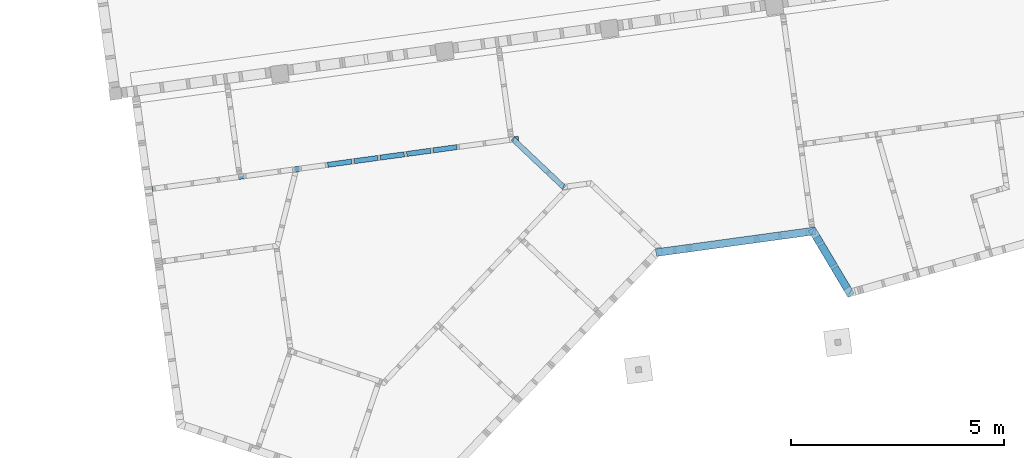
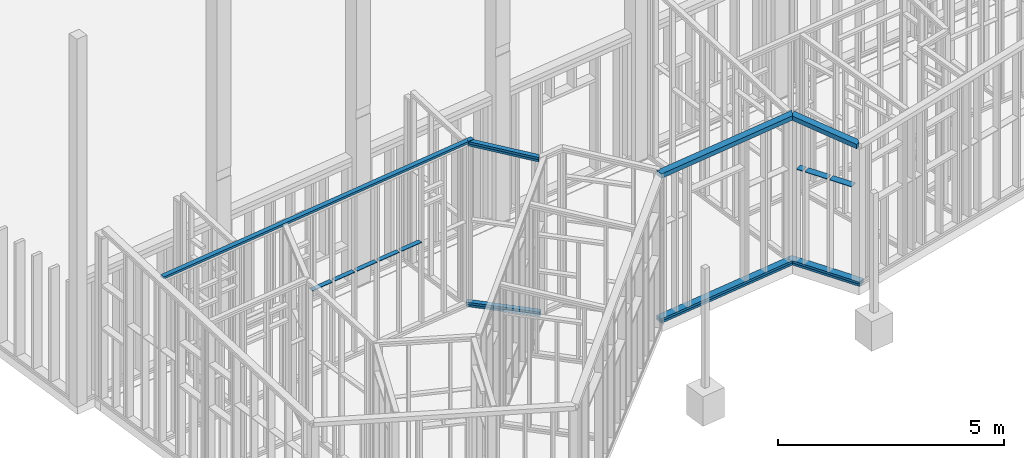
# One storey, part 18 of 24: 13 beams.
"""IFC2X3 building model written with IfcOpenShell, lengths in metres."""

from ifc_helpers import new_model, entity, si_unit, converted_unit, derived_unit, money_unit, direction, frame, frame_2d, origin_with_axes, place, context, subcontext, project, spatial, rectangle, extrude, boolean, clip, halfspace, faceted_brep, material, type_object, element, save


model = new_model("IFC2X3")

# Units and contexts
model_context = context("Model", 3, precision=1e-05, world=origin_with_axes(), true_north=direction((0.0, 1.0)))
body_context = subcontext(model_context, "Body", "Model", "MODEL_VIEW")
ifc_project = project(units=[si_unit("LENGTHUNIT", "METRE"), si_unit("AREAUNIT", "SQUARE_METRE"), si_unit("VOLUMEUNIT", "CUBIC_METRE"), converted_unit("PLANEANGLEUNIT", "DEGREE", entity("IfcPlaneAngleMeasure", 0.0174532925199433), si_unit("PLANEANGLEUNIT", "RADIAN"), dimensions=[0, 0, 0, 0, 0, 0, 0]), money_unit("EUR"), converted_unit("TIMEUNIT", "Year", entity("IfcTimeMeasure", 31557600.0), si_unit("TIMEUNIT", "SECOND"), dimensions=[0, 0, 1, 0, 0, 0, 0]), si_unit("MASSUNIT", "GRAM", prefix="KILO"), si_unit("THERMODYNAMICTEMPERATUREUNIT", "DEGREE_CELSIUS"), si_unit("LUMINOUSINTENSITYUNIT", "LUMEN"), si_unit("ENERGYUNIT", "JOULE", prefix="MEGA"), derived_unit("THERMALCONDUCTANCEUNIT", [(si_unit("POWERUNIT", "WATT"), 1), (si_unit("LENGTHUNIT", "METRE"), -1), (si_unit("THERMODYNAMICTEMPERATUREUNIT", "KELVIN"), -1)]), derived_unit("SPECIFICHEATCAPACITYUNIT", [(si_unit("ENERGYUNIT", "JOULE"), 1), (si_unit("MASSUNIT", "GRAM", prefix="KILO"), -1), (si_unit("THERMODYNAMICTEMPERATUREUNIT", "KELVIN"), -1)]), derived_unit("MASSDENSITYUNIT", [(si_unit("MASSUNIT", "GRAM", prefix="KILO"), 1), (si_unit("VOLUMEUNIT", "CUBIC_METRE"), -1)])], contexts=[model_context])

# Site, building, storey
site_placement = place(None, origin_with_axes())
site = spatial("IfcSite", under=ifc_project, at=site_placement, Name="Gelände", CompositionType="ELEMENT")
building_placement = place(site_placement, origin_with_axes())
building = spatial("IfcBuilding", under=site, at=building_placement, Name="Gebäude", CompositionType="ELEMENT")
storey_placement = place(building_placement, origin_with_axes())
storey = spatial("IfcBuildingStorey", under=building, at=storey_placement, Name="EG", CompositionType="ELEMENT", Elevation=0.0)

# Beams
ifc_material_1 = material(Name="Bauholz")
beam_type_1 = type_object("IfcBeamType", Name="Bauholz 120 x 60", PredefinedType="NOTDEFINED")
beam_1_placement = place(storey_placement, frame((95.95376242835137, -152.0896479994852, -0.04300000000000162), z_axis=(0.0, 0.0, 1.0), x_axis=(-0.6874340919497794, -0.7262467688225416, 0.0)))
element("IfcBeam", 1, at=beam_1_placement, inside=storey, type_object=beam_type_1, material=ifc_material_1, Name="Unterzug-021", context=body_context, shape_type="CSG", body=[
    boolean("DIFFERENCE", boolean("DIFFERENCE", extrude(rectangle(XDim=0.06, YDim=0.12, at=frame_2d((-0.03, 0.0), x_axis=(1.0, 0.0))), frame((0.0, -0.02878461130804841, 0.0), z_axis=(0.0, 1.0, 0.0), x_axis=(0.0, 0.0, 1.0)), (0.0, 0.0, 1.0), 1.685041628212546), faceted_brep([(0.05999999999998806, 0.02876463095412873, 0.0), (-0.06000000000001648, -0.02876461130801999, 0.0), (-0.06000000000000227, -0.02878461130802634, 0.0), (0.06000000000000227, -0.02878461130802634, 0.0), (-0.06000000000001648, -0.02876461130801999, -0.06), (0.05999999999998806, 0.02876463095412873, -0.06), (-0.06000000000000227, -0.02878461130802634, -0.06), (0.06000000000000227, -0.02878461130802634, -0.06)], [[[0, 1, 2, 3]], [[4, 1, 0, 5]], [[1, 4, 6, 2]], [[6, 7, 3, 2]], [[5, 0, 3, 7]], [[4, 5, 7, 6]]])), faceted_brep([(-0.06000000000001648, 1.598707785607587, -0.06), (-0.06000000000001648, 1.598707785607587, 0.0), (-0.05999999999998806, 1.656257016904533, 0.0), (-0.05999999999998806, 1.656257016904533, -0.06), (0.05999999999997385, 1.656237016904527, 0.0), (0.05999999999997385, 1.656237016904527, -0.06), (0.05999999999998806, 1.656257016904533, 0.0), (0.05999999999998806, 1.656257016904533, -0.06)], [[[0, 1, 2, 3]], [[4, 1, 0, 5]], [[1, 4, 6, 2]], [[6, 7, 3, 2]], [[5, 0, 3, 7]], [[4, 5, 7, 6]]])),
])
beam_2_placement = place(storey_placement, frame((95.95319406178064, -152.089110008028, 4.312283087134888), z_axis=(0.0, 0.0, 1.0), x_axis=(-0.6874340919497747, -0.7262467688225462, 0.0)))
element("IfcBeam", 2, at=beam_2_placement, inside=storey, type_object=beam_type_1, material=ifc_material_1, Name="Unterzug-021", context=body_context, shape_type="CSG", body=[
    boolean("DIFFERENCE", clip(clip(extrude(rectangle(XDim=0.06, YDim=0.12, at=frame_2d((-0.03, 0.0), x_axis=(1.0, 0.0))), frame((0.0, -0.01848409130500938, 0.002025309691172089), z_axis=(0.0, 0.9940506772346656, -0.1089185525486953), x_axis=(0.0, 0.1089185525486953, 0.9940506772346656)), (0.0, 0.0, 1.0), 1.691501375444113), halfspace(frame((0.0, 0.0, 0.0), z_axis=(0.0, 1.0, 0.0), x_axis=(0.0, 0.0, 1.0)), True)), halfspace(frame((0.0, 1.628255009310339, 0.0), z_axis=(0.0, -1.0, 0.0), x_axis=(0.0, 0.0, -1.0)), True)), faceted_brep([(-0.05999999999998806, 1.596148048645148, -0.2352497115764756), (-0.05999999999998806, 1.600047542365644, -0.1753178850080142), (-0.05999999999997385, 1.628255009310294, -0.1784085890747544), (-0.05999999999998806, 1.628255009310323, -0.2387676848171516), (-0.003820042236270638, 1.628255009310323, -0.1784085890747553), (0.003946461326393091, 1.628255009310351, -0.2387676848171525)], [[[0, 1, 2, 3]], [[4, 1, 0, 5]], [[1, 4, 2]], [[4, 5, 3, 2]], [[5, 0, 3]]])),
])
beam_3_placement = place(storey_placement, frame((87.45742343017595, -153.2534633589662, 4.312197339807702), z_axis=(0.0, 0.0, 1.0), x_axis=(0.1357111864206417, -0.9907484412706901, 0.0)))
element("IfcBeam", 3, at=beam_3_placement, inside=storey, type_object=beam_type_1, material=ifc_material_1, Name="Unterzug-021", context=body_context, shape_type="CSG", body=[
    boolean("DIFFERENCE", boolean("DIFFERENCE", extrude(rectangle(XDim=0.06, YDim=0.12, at=frame_2d((-0.03, 0.0), x_axis=(1.0, 0.0))), frame((0.0, 0.0, 0.0), z_axis=(0.0, 1.0, 0.0), x_axis=(0.0, 0.0, 1.0)), (0.0, 0.0, 1.0), 8.700851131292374), faceted_brep([(0.05999999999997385, 3.334071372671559, -0.01078720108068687), (0.05999999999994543, 3.334071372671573, -0.05999999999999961), (0.05999999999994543, 3.416908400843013, -0.05999999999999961), (0.0600000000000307, 3.416908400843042, -0.006773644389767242), (0.03144206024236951, 3.345490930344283, -0.05999999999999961), (0.03144206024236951, 3.345490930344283, -0.006773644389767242)], [[[0, 1, 2, 3]], [[4, 1, 0, 5]], [[4, 2, 1]], [[3, 2, 4, 5]], [[0, 3, 5]]])), faceted_brep([(0.03757408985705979, 8.528899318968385, 0.0), (0.03757408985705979, 8.700831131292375, 0.0), (0.05999999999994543, 8.700831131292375, 0.0), (0.06000000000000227, 8.700851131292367, 0.0), (-0.06000000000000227, 8.700851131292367, 0.0), (-0.06000000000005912, 8.60444200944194, 0.0), (-0.03818427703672, 8.6219653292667, 0.0), (0.03696396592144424, 8.528409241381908, 0.0), (0.05999999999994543, 8.54691276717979, -0.003151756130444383), (0.05999999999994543, 8.700831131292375, -0.003151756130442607), (0.05999999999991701, 8.546912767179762, -0.05999999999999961), (0.06000000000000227, 8.700851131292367, -0.05999999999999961), (-0.06000000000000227, 8.700851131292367, -0.05999999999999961), (-0.06000000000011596, 8.604442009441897, -0.04664595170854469), (-0.06000000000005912, 8.604442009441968, -0.05999999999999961), (-0.06000000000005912, 8.60444200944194, -0.05720734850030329), (-0.06000000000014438, 8.450523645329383, -0.04664595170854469), (-0.03818427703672, 8.6219653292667, -0.04971195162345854), (0.03501899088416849, 8.530830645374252, -0.05999999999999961), (0.03696396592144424, 8.528409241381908, -0.05999999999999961), (-0.04012925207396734, 8.620403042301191, -0.05999999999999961), (0.03501899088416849, 8.526846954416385, -0.05999999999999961)], [[[0, 1, 2, 3, 4, 5, 6, 7]], [[8, 9, 1, 0]], [[9, 2, 1]], [[8, 10, 11, 3, 2, 9]], [[3, 11, 12, 4]], [[13, 5, 4, 12, 14, 15, 16]], [[6, 5, 13, 17]], [[7, 6, 17, 18, 19]], [[10, 8, 0, 7, 19]], [[20, 14, 12, 11, 10, 19, 18, 21]], [[14, 20, 15]], [[20, 21, 16, 15]], [[13, 16, 21, 18, 17]]])),
])
beam_type_2 = type_object("IfcBeamType", Name="Bauholz 120 x 15", PredefinedType="NOTDEFINED")
beam_4_placement = place(storey_placement, frame((91.59073949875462, -152.6872881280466, 2.149999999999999), z_axis=(0.0, 0.0, 1.0), x_axis=(0.1357111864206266, -0.9907484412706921, 0.0)))
element("IfcBeam", 4, at=beam_4_placement, inside=storey, type_object=beam_type_2, material=ifc_material_1, Name="Unterzug-021", context=body_context, shape_type="CSG", body=[
    boolean("DIFFERENCE", boolean("DIFFERENCE", boolean("DIFFERENCE", boolean("DIFFERENCE", extrude(rectangle(XDim=0.015, YDim=0.12, at=frame_2d((-0.0075, 0.0), x_axis=(1.0, 0.0))), frame((0.0, 0.0, 0.0), z_axis=(0.0, 1.0, 0.0), x_axis=(0.0, 0.0, 1.0)), (0.0, 0.0, 1.0), 3.064999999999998), faceted_brep([(0.06000003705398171, 2.500000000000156, -0.01500000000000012), (0.06000003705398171, 2.500000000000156, 0.0), (0.06000003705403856, 2.440000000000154, 0.0), (0.06000003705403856, 2.440000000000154, -0.01500000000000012), (-0.05999996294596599, 2.500000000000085, 0.0), (-0.05999996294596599, 2.500000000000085, -0.01500000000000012), (-0.05999996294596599, 2.440000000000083, 0.0), (-0.05999996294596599, 2.440000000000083, -0.01500000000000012)], [[[0, 1, 2, 3]], [[4, 1, 0, 5]], [[1, 4, 6, 2]], [[7, 3, 2, 6]], [[5, 0, 3, 7]], [[4, 5, 7, 6]]])), faceted_brep([(0.06000003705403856, 1.875000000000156, -0.01500000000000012), (0.06000003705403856, 1.875000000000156, 0.0), (0.06000003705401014, 1.815000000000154, 0.0), (0.06000003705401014, 1.815000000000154, -0.01500000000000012), (-0.05999996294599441, 1.875000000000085, 0.0), (-0.05999996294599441, 1.875000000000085, -0.01500000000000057), (-0.05999996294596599, 1.815000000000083, 0.0), (-0.05999996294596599, 1.815000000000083, -0.01500000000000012)], [[[0, 1, 2, 3]], [[4, 1, 0, 5]], [[1, 4, 6, 2]], [[7, 3, 2, 6]], [[5, 0, 3, 7]], [[4, 5, 7, 6]]])), faceted_brep([(0.06000003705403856, 1.250000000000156, -0.01500000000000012), (0.06000003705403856, 1.250000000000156, 0.0), (0.06000003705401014, 1.190000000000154, 0.0), (0.06000003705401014, 1.190000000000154, -0.01500000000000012), (-0.05999996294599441, 1.250000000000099, 0.0), (-0.05999996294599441, 1.250000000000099, -0.01500000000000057), (-0.05999996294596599, 1.190000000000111, 0.0), (-0.05999996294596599, 1.190000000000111, -0.01500000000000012)], [[[0, 1, 2, 3]], [[4, 1, 0, 5]], [[1, 4, 6, 2]], [[7, 3, 2, 6]], [[5, 0, 3, 7]], [[4, 5, 7, 6]]])), faceted_brep([(0.06000003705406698, 0.6250000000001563, -0.01500000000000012), (0.06000003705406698, 0.6250000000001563, 0.0), (0.0600000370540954, 0.5650000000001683, 0.0), (0.0600000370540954, 0.5650000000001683, -0.01500000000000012), (-0.05999996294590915, 0.6250000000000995, 0.0), (-0.05999996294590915, 0.6250000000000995, -0.01500000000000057), (-0.05999996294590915, 0.565000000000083, 0.0), (-0.05999996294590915, 0.565000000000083, -0.01500000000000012)], [[[0, 1, 2, 3]], [[4, 1, 0, 5]], [[1, 4, 6, 2]], [[7, 3, 2, 6]], [[5, 0, 3, 7]], [[4, 5, 7, 6]]])),
])
ifc_material_2 = material(Name="Holz, Bauholz")
beam_type_3 = type_object("IfcBeamType", Name="Holz, Bauholz 120 x 60", PredefinedType="NOTDEFINED")
beam_5_placement = place(storey_placement, frame((95.95376242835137, -152.0896479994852, -0.1030000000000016), z_axis=(0.0, 0.0, 1.0), x_axis=(-0.6874340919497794, -0.7262467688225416, 0.0)))
element("IfcBeam", 5, at=beam_5_placement, inside=storey, type_object=beam_type_3, material=ifc_material_2, Name="Unterzug-021", context=body_context, shape_type="CSG", body=[
    boolean("DIFFERENCE", boolean("DIFFERENCE", extrude(rectangle(XDim=0.06, YDim=0.12, at=frame_2d((-0.03, 0.0), x_axis=(1.0, 0.0))), frame((0.0, -0.02878461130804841, 0.0), z_axis=(0.0, 1.0, 0.0), x_axis=(0.0, 0.0, 1.0)), (0.0, 0.0, 1.0), 1.685041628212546), faceted_brep([(0.05999999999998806, 0.02876463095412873, 0.0), (-0.06000000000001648, -0.02876461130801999, 0.0), (-0.06000000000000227, -0.02878461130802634, 0.0), (0.06000000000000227, -0.02878461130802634, 0.0), (-0.06000000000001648, -0.02876461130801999, -0.06), (0.05999999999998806, 0.02876463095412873, -0.06), (-0.06000000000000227, -0.02878461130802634, -0.06), (0.06000000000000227, -0.02878461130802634, -0.06)], [[[0, 1, 2, 3]], [[4, 1, 0, 5]], [[1, 4, 6, 2]], [[6, 7, 3, 2]], [[5, 0, 3, 7]], [[4, 5, 7, 6]]])), faceted_brep([(-0.06000000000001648, 1.598707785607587, -0.06), (-0.06000000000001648, 1.598707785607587, 0.0), (-0.05999999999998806, 1.656257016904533, 0.0), (-0.05999999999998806, 1.656257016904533, -0.06), (0.05999999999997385, 1.656237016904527, 0.0), (0.05999999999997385, 1.656237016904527, -0.06), (0.05999999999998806, 1.656257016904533, 0.0), (0.05999999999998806, 1.656257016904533, -0.06)], [[[0, 1, 2, 3]], [[4, 1, 0, 5]], [[1, 4, 6, 2]], [[6, 7, 3, 2]], [[5, 0, 3, 7]], [[4, 5, 7, 6]]])),
])
beam_6_placement = place(storey_placement, frame((95.9317055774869, -152.0687699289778, 4.25516600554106), z_axis=(0.0, 0.0, 1.0), x_axis=(-0.687434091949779, -0.7262467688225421, 0.0)))
element("IfcBeam", 6, at=beam_6_placement, inside=storey, type_object=beam_type_3, material=ifc_material_2, Name="Unterzug-021", context=body_context, shape_type="CSG", body=[
    boolean("DIFFERENCE", boolean("DIFFERENCE", clip(clip(extrude(rectangle(XDim=0.06, YDim=0.12, at=frame_2d((-0.03, 0.0), x_axis=(1.0, 0.0))), frame((0.0, -0.01848409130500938, 0.002025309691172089), z_axis=(0.0, 0.9940506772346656, -0.1089185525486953), x_axis=(0.0, 0.1089185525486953, 0.9940506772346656)), (0.0, 0.0, 1.0), 1.725125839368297), halfspace(frame((0.0, 0.0, 0.0), z_axis=(0.0, 1.0, 0.0), x_axis=(0.0, 0.0, 1.0)), True)), halfspace(frame((0.0, 1.657843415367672, 0.0), z_axis=(0.0, -1.0, 0.0), x_axis=(0.0, 0.0, -1.0)), True)), faceted_brep([(-0.06000000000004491, 1.654566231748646, -0.1812915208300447), (-0.06000000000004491, 1.657843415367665, -0.1816506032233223), (-0.05999999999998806, 1.657843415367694, -0.2420096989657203), (-0.06000000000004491, 1.629078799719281, -0.2388579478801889), (-0.06000000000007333, 1.629078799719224, -0.178498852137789), (-0.0550626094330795, 1.657843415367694, -0.1820851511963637), (-0.0550626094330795, 1.650600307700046, -0.1812915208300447), (-0.05506260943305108, 1.657843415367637, -0.1816506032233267), (0.04333167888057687, 1.657843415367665, -0.1816506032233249), (0.0090734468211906, 1.657843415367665, -0.1863237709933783), (0.03744452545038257, 1.657843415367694, -0.1863237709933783), (0.03744452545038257, 1.657843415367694, -0.2412915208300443), (0.03217967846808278, 1.657843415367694, -0.2420096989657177), (0.01160384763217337, 1.625672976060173, -0.2384847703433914), (-0.05575990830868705, 1.625672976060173, -0.2384847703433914), (0.03217967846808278, 1.651288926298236, -0.2412915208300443), (-0.05728944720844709, 1.626901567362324, -0.1812915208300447), (-0.05743947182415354, 1.62702207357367, -0.1782734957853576), (-0.05575990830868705, 1.625672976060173, -0.1812915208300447), (-0.05506260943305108, 1.654566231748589, -0.1812915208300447), (-0.05506260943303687, 1.628215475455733, -0.1784042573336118), (-0.05506260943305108, 1.625112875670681, -0.17806430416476), (-0.05088606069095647, 1.630312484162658, -0.1786340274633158), (-0.002580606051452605, 1.654566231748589, -0.1812915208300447), (0.04333167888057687, 1.654566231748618, -0.1812915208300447), (0.002808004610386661, 1.650043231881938, -0.1863237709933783), (-0.009635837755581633, 1.588624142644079, -0.1812915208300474), (-0.009635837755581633, 1.625672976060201, -0.1853509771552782), (0.002808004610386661, 1.625672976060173, -0.183653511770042), (0.0200527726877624, 1.63619149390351, -0.1863237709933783), (0.01160384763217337, 1.625672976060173, -0.1844276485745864), (-0.05506260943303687, 1.625672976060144, -0.1813528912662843), (-0.05506260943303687, 1.625672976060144, -0.1812915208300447), (-0.05506260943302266, 1.628027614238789, -0.1812915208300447), (-0.05506260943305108, 1.625112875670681, -0.1812915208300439), (-0.05111995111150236, 1.630021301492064, -0.1812915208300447)], [[[0, 1, 2, 3, 4]], [[5, 1, 0, 6]], [[5, 7, 8, 9, 10, 11, 12, 2, 1]], [[13, 14, 3, 2, 12, 15]], [[16, 17, 4, 3, 14, 18]], [[19, 0, 4, 17, 20, 21, 22, 23, 24, 8, 7]], [[0, 19, 6]], [[19, 7, 5, 6]], [[25, 9, 8, 24, 26, 27, 28]], [[29, 10, 9, 25]], [[15, 11, 10, 29, 30, 13]], [[11, 15, 12]], [[18, 14, 13, 30, 28, 27, 31, 32]], [[33, 20, 17, 16]], [[32, 33, 16, 18]], [[34, 21, 20, 33, 32, 31]], [[35, 22, 21, 34]], [[35, 23, 22]], [[26, 24, 23, 35, 34]], [[27, 26, 34, 31]], [[28, 30, 29, 25]]])), faceted_brep([(0.03917423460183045, 0.07586378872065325, -0.008312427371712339), (0.0, 0.02709367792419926, -0.002968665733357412), (-0.06000000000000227, 0.02709367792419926, -0.002968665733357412), (-0.06000000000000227, 0.001606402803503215, -0.0001760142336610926), (-0.05800010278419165, 0.0, 0.0), (0.05999999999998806, 0.0, 0.0), (0.05999999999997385, 0.05913564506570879, -0.006479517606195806), (0.03917423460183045, 0.07586378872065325, -0.06296866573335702), (-0.002632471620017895, 0.02381637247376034, -0.06296866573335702), (-0.0217627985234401, 0.0, -0.0603590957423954), (-0.0217627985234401, 0.0, -0.002968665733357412), (-0.06000000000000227, 0.001606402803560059, -0.002968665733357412), (-0.05800010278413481, 0.0, -0.002968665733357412), (0.06000000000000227, 0.0, -0.06035909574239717), (0.05999999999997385, 0.05913564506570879, -0.06296866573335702), (0.05999999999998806, 0.02381637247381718, -0.06296866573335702)], [[[0, 1, 2, 3, 4, 5, 6]], [[1, 0, 7, 8, 9, 10]], [[11, 2, 1, 10, 12]], [[11, 3, 2]], [[4, 3, 11, 12]], [[10, 9, 13, 5, 4, 12]], [[14, 6, 5, 13, 15]], [[0, 6, 14, 7]], [[15, 8, 7, 14]], [[8, 15, 13, 9]]])),
])
beam_type_4 = type_object("IfcBeamType", Name="Bauholz 180 x 120", PredefinedType="NOTDEFINED")
beam_7_placement = place(storey_placement, frame((99.33878958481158, -154.7503261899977, 3.877160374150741), z_axis=(0.0, 0.0, 1.0), x_axis=(0.1357111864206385, -0.9907484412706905, 0.0)))
element("IfcBeam", 7, at=beam_7_placement, inside=storey, type_object=beam_type_4, material=ifc_material_1, Name="Unterzug-035", context=body_context, shape_type="CSG", body=[
    boolean("DIFFERENCE", boolean("DIFFERENCE", boolean("DIFFERENCE", extrude(rectangle(XDim=0.12, YDim=0.18, at=frame_2d((-0.06, 0.0), x_axis=(1.0, 0.0))), frame((0.0, -0.03216883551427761, 0.0), z_axis=(0.0, 1.0, 0.0), x_axis=(0.0, 0.0, 1.0)), (0.0, 0.0, 1.0), 3.792301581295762), faceted_brep([(-0.09000000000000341, -0.02663385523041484, -0.1200000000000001), (0.09000000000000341, 0.032227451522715, -0.1200000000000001), (0.09000000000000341, -0.03216883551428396, -0.1200000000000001), (-0.09000000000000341, -0.03216883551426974, -0.1200000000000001), (0.08999999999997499, 0.02671247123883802, 0.0), (-0.09000000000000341, -0.03214883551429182, 0.0), (0.09000000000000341, -0.03216883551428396, 0.0), (-0.09000000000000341, -0.03216883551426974, 0.0)], [[[0, 1, 2, 3]], [[4, 1, 0, 5]], [[1, 4, 6, 2]], [[3, 2, 6, 7]], [[5, 0, 3, 7]], [[4, 5, 7, 6]]])), faceted_brep([(-0.09000000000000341, -0.01605121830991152, 0.0), (-0.05092830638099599, 0.015332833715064, 0.0), (-0.09000000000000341, 0.06397528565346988, 0.0), (-0.09000000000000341, -0.01605121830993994, -0.04242972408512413), (-0.05497337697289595, 0.01208366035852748, -0.04735239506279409), (-0.09000000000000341, 0.05569018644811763, -0.04735239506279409)], [[[0, 1, 2]], [[1, 0, 3, 4]], [[5, 2, 1, 4]], [[3, 0, 2, 5]], [[3, 5, 4]]])), faceted_brep([(-0.09000000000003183, 3.749819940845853, -0.1200000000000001), (-0.09000000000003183, 3.76011274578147, 0.0), (-0.09000000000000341, 3.760132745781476, 0.0), (-0.09000000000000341, 3.760132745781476, -0.1200000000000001), (0.08999999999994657, 3.650260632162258, 0.0), (0.09000000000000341, 3.639967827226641, -0.1200000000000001), (0.09000000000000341, 3.760132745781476, 0.0), (0.09000000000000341, 3.760132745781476, -0.1200000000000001)], [[[0, 1, 2, 3]], [[4, 1, 0, 5]], [[1, 4, 6, 2]], [[6, 7, 3, 2]], [[5, 0, 3, 7]], [[4, 5, 7, 6]]])),
])
beam_8_placement = place(storey_placement, frame((103.8705043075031, -155.7018895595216, 3.658228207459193), z_axis=(0.0, 0.0, 1.0), x_axis=(0.8591430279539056, 0.5117355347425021, 0.0)))
element("IfcBeam", 8, at=beam_8_placement, inside=storey, type_object=beam_type_4, material=ifc_material_1, Name="Unterzug-035", context=body_context, shape_type="CSG", body=[
    boolean("DIFFERENCE", boolean("DIFFERENCE", clip(clip(extrude(rectangle(XDim=0.12, YDim=0.18, at=frame_2d((-0.06, 0.0), x_axis=(1.0, 0.0))), frame((0.0, -0.08329860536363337, -0.01077818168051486), z_axis=(0.0, 0.9917325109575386, 0.1283223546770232), x_axis=(0.0, -0.1283223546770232, 0.9917325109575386)), (0.0, 0.0, 1.0), 1.849083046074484), halfspace(frame((0.0, 0.0, 0.0), z_axis=(0.0, 1.0, 0.0), x_axis=(0.0, 0.0, 1.0)), True)), halfspace(frame((0.0, 1.692039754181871, 0.0), z_axis=(0.0, -1.0, 0.0), x_axis=(0.0, 0.0, -1.0)), True)), faceted_brep([(-0.09000000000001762, 1.622977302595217, 0.2100004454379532), (0.007499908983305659, 1.692039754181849, 0.2189365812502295), (-0.0899999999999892, 1.692039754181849, 0.21893658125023), (-0.007709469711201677, 1.692039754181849, 0.09793621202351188), (-0.09000000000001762, 1.633750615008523, 0.09039405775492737), (-0.09000000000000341, 1.692039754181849, 0.09793621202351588)], [[[0, 1, 2]], [[3, 1, 0, 4]], [[1, 3, 5, 2]], [[4, 0, 2, 5]], [[3, 4, 5]]])), faceted_brep([(0.08999999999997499, 0.07812062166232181, -0.1108921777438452), (0.08999999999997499, 0.0680184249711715, 0.008801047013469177), (0.0899999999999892, 0.0, 0.0), (0.0899999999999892, 0.0, -0.1210003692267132), (0.006142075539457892, 0.0, 0.0), (-0.006312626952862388, 0.0, -0.1210003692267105)], [[[0, 1, 2, 3]], [[4, 1, 0, 5]], [[1, 4, 2]], [[4, 5, 3, 2]], [[5, 0, 3]]])),
])
beam_type_5 = type_object("IfcBeamType", Name="Holz, Bauholz 180 x 60", PredefinedType="NOTDEFINED")
beam_9_placement = place(storey_placement, frame((103.0046276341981, -154.2481853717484, -0.1030000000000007), z_axis=(0.0, 0.0, 1.0), x_axis=(-0.8591430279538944, -0.511735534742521, 0.0)))
element("IfcBeam", 9, at=beam_9_placement, inside=storey, type_object=beam_type_5, material=ifc_material_2, Name="Unterzug-021", context=body_context, shape_type="CSG", body=[
    boolean("DIFFERENCE", boolean("DIFFERENCE", extrude(rectangle(XDim=0.06, YDim=0.18, at=frame_2d((-0.03, 0.0), x_axis=(1.0, 0.0))), frame((0.0, -0.05961256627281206, 0.0), z_axis=(0.0, 1.0, 0.0), x_axis=(0.0, 0.0, 1.0)), (0.0, 0.0, 1.0), 1.820762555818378), faceted_brep([(0.09000000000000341, 0.05959257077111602, 0.0), (-0.0899999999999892, -0.05959256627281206, 0.0), (-0.08999999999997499, -0.05961256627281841, 0.0), (0.09000000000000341, -0.05961256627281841, 0.0), (-0.0899999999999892, -0.05959256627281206, -0.05999999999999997), (0.09000000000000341, 0.05959257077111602, -0.06000000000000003), (-0.08999999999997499, -0.05961256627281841, -0.06), (0.09000000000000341, -0.05961256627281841, -0.06)], [[[0, 1, 2, 3]], [[4, 1, 0, 5]], [[1, 4, 6, 2]], [[6, 7, 3, 2]], [[5, 0, 3, 7]], [[4, 5, 7, 6]]])), faceted_brep([(-0.09000000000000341, 1.622949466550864, -0.05999999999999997), (-0.09000000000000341, 1.622949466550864, 0.0), (-0.0899999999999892, 1.761149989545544, 0.0), (-0.0899999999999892, 1.761149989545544, -0.06), (0.09000000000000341, 1.761129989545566, 0.0), (0.09000000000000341, 1.761129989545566, -0.06000000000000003), (0.09000000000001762, 1.761149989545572, 0.0), (0.09000000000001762, 1.761149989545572, -0.06)], [[[0, 1, 2, 3]], [[4, 1, 0, 5]], [[1, 4, 6, 2]], [[6, 7, 3, 2]], [[5, 0, 3, 7]], [[4, 5, 7, 6]]])),
])
beam_10_placement = place(storey_placement, frame((99.33878962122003, -154.7503261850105, -0.1030000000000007), z_axis=(0.0, 0.0, 1.0), x_axis=(0.1357111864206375, -0.9907484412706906, 0.0)))
element("IfcBeam", 10, at=beam_10_placement, inside=storey, type_object=beam_type_5, material=ifc_material_2, Name="Unterzug-021", context=body_context, shape_type="CSG", body=[
    boolean("DIFFERENCE", boolean("DIFFERENCE", boolean("DIFFERENCE", extrude(rectangle(XDim=0.06, YDim=0.18, at=frame_2d((-0.03, 0.0), x_axis=(1.0, 0.0))), frame((0.0, -0.0316900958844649, 0.0), z_axis=(0.0, 1.0, 0.0), x_axis=(0.0, 0.0, 1.0)), (0.0, 0.0, 1.0), 3.791372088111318), faceted_brep([(0.08999999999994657, 0.03167009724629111, -0.06000000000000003), (0.08999999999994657, 0.03167009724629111, 0.0), (0.09000000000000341, -0.03169009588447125, 0.0), (0.09000000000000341, -0.03169009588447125, -0.06), (-0.09000000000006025, -0.0316700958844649, 0.0), (-0.09000000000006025, -0.0316700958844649, -0.05999999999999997), (-0.09000000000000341, -0.03169009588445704, 0.0), (-0.09000000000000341, -0.03169009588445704, -0.06)], [[[0, 1, 2, 3]], [[4, 1, 0, 5]], [[1, 4, 6, 2]], [[7, 3, 2, 6]], [[5, 0, 3, 7]], [[4, 5, 7, 6]]])), faceted_brep([(-0.09000000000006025, -0.01605125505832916, 0.0), (-0.04212733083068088, 0.02240211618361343, 0.0), (-0.09000000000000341, 0.08200137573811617, 0.0), (-0.09000000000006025, -0.01605125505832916, -0.06000000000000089), (-0.04212733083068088, 0.02240211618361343, -0.06000000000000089), (-0.09000000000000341, 0.08200137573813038, -0.06000000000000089)], [[[0, 1, 2]], [[1, 0, 3, 4]], [[5, 2, 1, 4]], [[3, 0, 2, 5]], [[4, 3, 5]]])), faceted_brep([(-0.09000000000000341, 3.759661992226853, -0.05999999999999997), (-0.09000000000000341, 3.759661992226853, 0.0), (-0.09000000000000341, 3.759681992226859, 0.0), (-0.09000000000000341, 3.759681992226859, -0.06), (0.09000000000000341, 3.640476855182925, 0.0), (0.09000000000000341, 3.640476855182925, -0.06000000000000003), (0.08999999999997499, 3.759681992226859, 0.0), (0.08999999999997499, 3.759681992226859, -0.06)], [[[0, 1, 2, 3]], [[4, 1, 0, 5]], [[1, 4, 6, 2]], [[6, 7, 3, 2]], [[5, 0, 3, 7]], [[4, 5, 7, 6]]])),
])
beam_type_6 = type_object("IfcBeamType", Name="Bauholz 180 x 60", PredefinedType="NOTDEFINED")
beam_11_placement = place(storey_placement, frame((103.0046276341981, -154.2481853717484, -0.04300000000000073), z_axis=(0.0, 0.0, 1.0), x_axis=(-0.8591430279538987, -0.5117355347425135, 0.0)))
element("IfcBeam", 11, at=beam_11_placement, inside=storey, type_object=beam_type_6, material=ifc_material_1, Name="Unterzug-021", context=body_context, shape_type="CSG", body=[
    boolean("DIFFERENCE", boolean("DIFFERENCE", extrude(rectangle(XDim=0.06, YDim=0.18, at=frame_2d((-0.03, 0.0), x_axis=(1.0, 0.0))), frame((0.0, -0.05961256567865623, 0.0), z_axis=(0.0, 1.0, 0.0), x_axis=(0.0, 0.0, 1.0)), (0.0, 0.0, 1.0), 1.820762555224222), faceted_brep([(0.0899999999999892, 0.05959257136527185, 0.0), (-0.09000000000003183, -0.05959256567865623, 0.0), (-0.09000000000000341, -0.05961256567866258, 0.0), (0.0899999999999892, -0.05961256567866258, 0.0), (-0.09000000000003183, -0.05959256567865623, -0.05999999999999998), (0.0899999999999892, 0.05959257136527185, -0.06000000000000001), (-0.09000000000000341, -0.05961256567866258, -0.06), (0.0899999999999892, -0.05961256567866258, -0.06)], [[[0, 1, 2, 3]], [[4, 1, 0, 5]], [[1, 4, 6, 2]], [[6, 7, 3, 2]], [[5, 0, 3, 7]], [[4, 5, 7, 6]]])), faceted_brep([(-0.09000000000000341, 1.622949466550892, -0.05999999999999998), (-0.09000000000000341, 1.622949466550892, 0.0), (-0.09000000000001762, 1.761149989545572, 0.0), (-0.09000000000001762, 1.761149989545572, -0.06), (0.08999999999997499, 1.761129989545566, 0.0), (0.08999999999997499, 1.761129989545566, -0.06000000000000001), (0.08999999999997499, 1.761149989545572, 0.0), (0.08999999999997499, 1.761149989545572, -0.06)], [[[0, 1, 2, 3]], [[4, 1, 0, 5]], [[1, 4, 6, 2]], [[6, 7, 3, 2]], [[5, 0, 3, 7]], [[4, 5, 7, 6]]])),
])
beam_12_placement = place(storey_placement, frame((99.33878962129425, -154.7503261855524, -0.04300000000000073), z_axis=(0.0, 0.0, 1.0), x_axis=(0.1357111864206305, -0.9907484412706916, 0.0)))
element("IfcBeam", 12, at=beam_12_placement, inside=storey, type_object=beam_type_6, material=ifc_material_1, Name="Unterzug-021", context=body_context, shape_type="CSG", body=[
    boolean("DIFFERENCE", boolean("DIFFERENCE", boolean("DIFFERENCE", extrude(rectangle(XDim=0.06, YDim=0.18, at=frame_2d((-0.03, 0.0), x_axis=(1.0, 0.0))), frame((0.0, -0.03169009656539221, 0.0), z_axis=(0.0, 1.0, 0.0), x_axis=(0.0, 0.0, 1.0)), (0.0, 0.0, 1.0), 3.791372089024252), faceted_brep([(0.08999999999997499, 0.03167009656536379, -0.06000000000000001), (0.08999999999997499, 0.03167009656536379, 0.0), (0.08999999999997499, -0.03169009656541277, 0.0), (0.08999999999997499, -0.03169009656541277, -0.06), (-0.09000000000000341, -0.03167009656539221, 0.0), (-0.09000000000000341, -0.03167009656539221, -0.05999999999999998), (-0.09000000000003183, -0.03169009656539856, 0.0), (-0.09000000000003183, -0.03169009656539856, -0.06)], [[[0, 1, 2, 3]], [[4, 1, 0, 5]], [[1, 4, 6, 2]], [[7, 3, 2, 6]], [[5, 0, 3, 7]], [[4, 5, 7, 6]]])), faceted_brep([(-0.09000000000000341, -0.0160512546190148, 0.0), (-0.04212733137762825, 0.02240211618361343, 0.0), (-0.09000000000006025, 0.08200137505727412, 0.0), (-0.09000000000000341, -0.0160512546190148, -0.06), (-0.04212733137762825, 0.02240211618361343, -0.06), (-0.09000000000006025, 0.08200137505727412, -0.06000000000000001)], [[[0, 1, 2]], [[1, 0, 3, 4]], [[5, 2, 1, 4]], [[3, 0, 2, 5]], [[4, 3, 5]]])), faceted_brep([(-0.09000000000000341, 3.759661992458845, -0.05999999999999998), (-0.09000000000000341, 3.759661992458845, 0.0), (-0.09000000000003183, 3.759681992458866, 0.0), (-0.09000000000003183, 3.759681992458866, -0.06), (0.09000000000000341, 3.640476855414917, 0.0), (0.09000000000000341, 3.640476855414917, -0.06000000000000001), (0.08999999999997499, 3.759681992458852, 0.0), (0.08999999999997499, 3.759681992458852, -0.06)], [[[0, 1, 2, 3]], [[4, 1, 0, 5]], [[1, 4, 6, 2]], [[6, 7, 3, 2]], [[5, 0, 3, 7]], [[4, 5, 7, 6]]])),
])
beam_type_7 = type_object("IfcBeamType", Name="Bauholz 180 x 15", PredefinedType="NOTDEFINED")
beam_13_placement = place(storey_placement, frame((103.086157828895, -154.3850648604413, 2.471999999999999), z_axis=(0.0, 0.0, 1.0), x_axis=(-0.859143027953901, -0.5117355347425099, 0.0)))
element("IfcBeam", 13, at=beam_13_placement, inside=storey, type_object=beam_type_7, material=ifc_material_1, Name="Unterzug-021", context=body_context, shape_type="CSG", body=[
    boolean("DIFFERENCE", boolean("DIFFERENCE", extrude(rectangle(XDim=0.015, YDim=0.18, at=frame_2d((-0.0075, 0.0), x_axis=(1.0, 0.0))), frame((0.0, 0.0, 0.0), z_axis=(0.0, 1.0, 0.0), x_axis=(0.0, 0.0, 1.0)), (0.0, 0.0, 1.0), 1.403628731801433), faceted_brep([(0.09000006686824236, 0.8386277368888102, 0.0), (-0.08999993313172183, 0.8386277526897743, 0.0), (-0.08999993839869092, 0.7786277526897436, 0.0), (0.09000006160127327, 0.7786277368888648, 0.0), (-0.08999993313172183, 0.8386277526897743, -0.01500000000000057), (0.09000006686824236, 0.8386277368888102, -0.01500000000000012), (-0.08999993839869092, 0.7786277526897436, -0.01500000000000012), (0.09000006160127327, 0.7786277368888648, -0.01500000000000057)], [[[0, 1, 2, 3]], [[4, 1, 0, 5]], [[1, 4, 6, 2]], [[7, 3, 2, 6]], [[5, 0, 3, 7]], [[4, 5, 7, 6]]])), faceted_brep([(0.08999999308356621, 0.2136277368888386, 0.0), (-0.0900000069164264, 0.2136277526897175, 0.0), (-0.09000001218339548, 0.1536277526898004, 0.0), (0.08999998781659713, 0.1536277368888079, 0.0), (-0.0900000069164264, 0.2136277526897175, -0.01500000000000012), (0.08999999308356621, 0.2136277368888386, -0.01500000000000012), (-0.09000001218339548, 0.1536277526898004, -0.01500000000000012), (0.08999998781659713, 0.1536277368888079, -0.01500000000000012)], [[[0, 1, 2, 3]], [[4, 1, 0, 5]], [[1, 4, 6, 2]], [[7, 3, 2, 6]], [[5, 0, 3, 7]], [[4, 5, 7, 6]]])),
])

save(model, "model.ifc")
